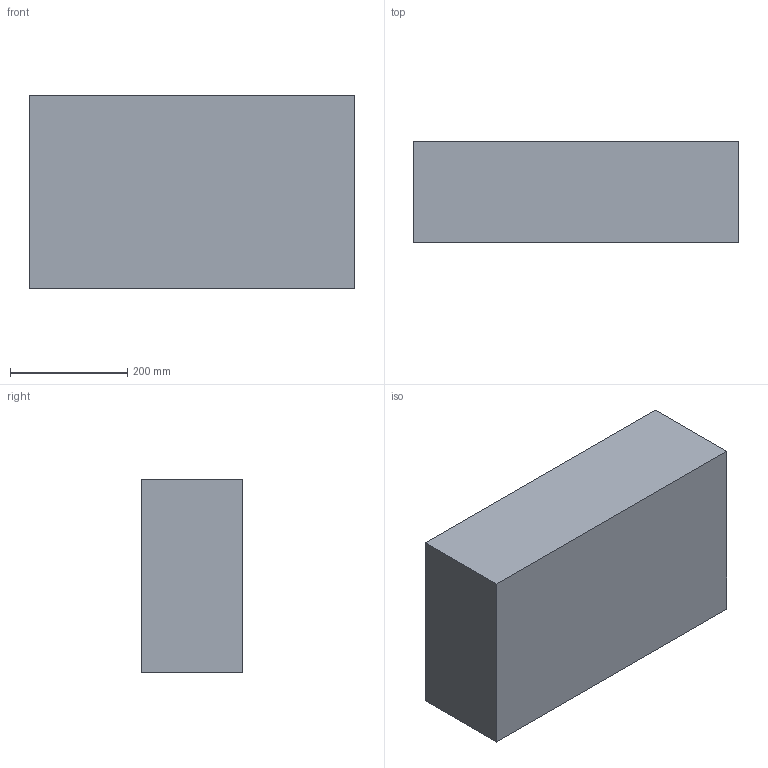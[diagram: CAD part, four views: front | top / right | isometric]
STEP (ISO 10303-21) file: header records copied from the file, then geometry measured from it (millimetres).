
FILE_DESCRIPTION (( 'STEP AP214' ), '1' );
FILE_NAME ('1511-931 Bottom PID 7-24-2025.STEP', '2025-08-08T08:50:00', ( '' ), ( '' ), 'SwSTEP 2.0', 'SolidWorks 2025', '' );
FILE_SCHEMA (( 'AUTOMOTIVE_DESIGN' ));
Length unit declared in the file: inch
Products named in the file (1): 1511-931 Bottom PID 7-24-2025
Bounding box: 554.73 x 172.47 x 329.69 mm (x, y, z)
Volume: 10614704.9 mm3; surface area: 881477.8 mm2
Topology: 1 solids, 1 shells, 53 faces, 130 edges, 78 vertices
Faces by surface type: cylinder 22, plane 20, bspline 9, sphere 2
Entity records: 1845 total; most frequent: CARTESIAN_POINT 709, ORIENTED_EDGE 256, DIRECTION 205, EDGE_CURVE 128, VERTEX_POINT 78, LINE 69, VECTOR 69, AXIS2_PLACEMENT_3D 68
